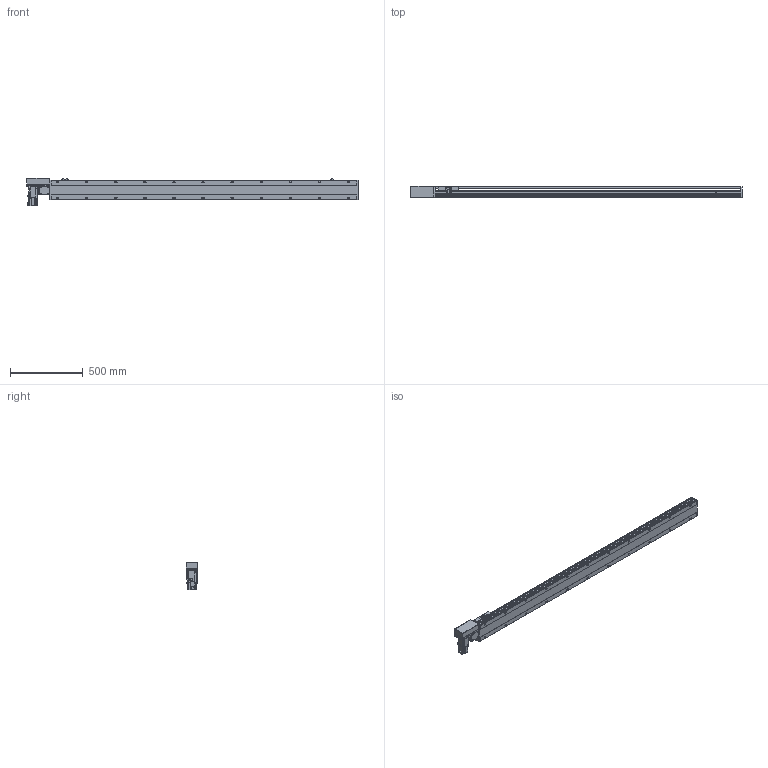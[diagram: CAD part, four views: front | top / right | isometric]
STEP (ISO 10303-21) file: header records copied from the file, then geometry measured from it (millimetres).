
FILE_DESCRIPTION(/* description */ ('STEP AP214'),/* implementation_level */ '2;1');
FILE_NAME(/* name */ 'PBS140-P40-S1850-R-T40-C1-N(0)',/* time_stamp */ '2022-06-06T03:29:06+02:00',/* author */ ('License CC BY-ND 4.0'),/* organization */ ('CADENAS'),/* preprocessor_version */ 'ST-DEVELOPER v18.102',/* originating_system */ 'PARTsolutions',/* authorisation */ ' ');
FILE_SCHEMA (('AUTOMOTIVE_DESIGN {1 0 10303 214 3 1 1}'));
Length unit declared in the file: millimetre
Products named in the file (7): PBS140-P40-S1850-R-T40-C1-N(0); PBS140_sensor; PBS140_plant; PBS140_sliser; T40-p1; PBS140T-R_motors; PBS140-S1850()_body
Assembly tree (8 placements, depth 2):
  PBS140-P40-S1850-R-T40-C1-N(0)
    PBS140_sensor  x3
    PBS140_plant
    PBS140_sliser
    T40-p1
    PBS140T-R_motors
    PBS140-S1850()_body
Bounding box: 2283 x 80.5 x 189.7 mm (x, y, z)
Volume: 10077315.2 mm3; surface area: 1728635.9 mm2
Topology: 8 solids, 8 shells, 1123 faces, 2956 edges, 1931 vertices
Faces by surface type: plane 710, cylinder 355, cone 48, sphere 8, torus 2
Full cylindrical faces by diameter (mm): 3.242 x4, 4 x2, 4.134 x4, 4.4 x8, 4.5 x2, 4.8 x4, 4.917 x30, 5.5 x7, 6 x2, 7 x24, 7.5 x8, 8 x12, 8.5 x4, 10.5 x22, 14 x1, 30 x2, 50 x2
Entity records: 32019 total; most frequent: CARTESIAN_POINT 6001, DIRECTION 5407, ORIENTED_EDGE 5092, EDGE_CURVE 2546, AXIS2_PLACEMENT_3D 1897, VERTEX_POINT 1773, LINE 1613, VECTOR 1613
